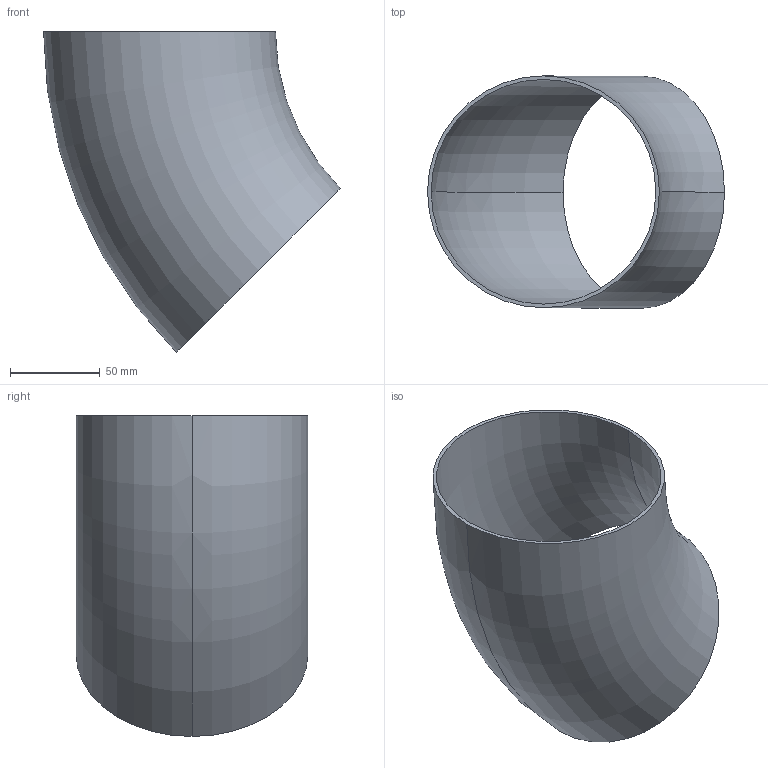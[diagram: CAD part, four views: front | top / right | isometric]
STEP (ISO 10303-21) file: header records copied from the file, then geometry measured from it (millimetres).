
FILE_DESCRIPTION (( 'STEP AP203' ), '1' );
FILE_NAME ('3D_R1650_129x2_17351600.STEP', '2024-08-03T09:10:18', ( '' ), ( '' ), 'SwSTEP 2.0', 'SolidWorks 2024', '' );
FILE_SCHEMA (( 'CONFIG_CONTROL_DESIGN' ));
Length unit declared in the file: millimetre
Products named in the file (1): 3D_R1650_129x2_17351600
Bounding box: 165.17 x 129 x 178.54 mm (x, y, z)
Volume: 117823.3 mm3; surface area: 119419.3 mm2
Topology: 1 solids, 1 shells, 6 faces, 12 edges, 8 vertices
Faces by surface type: torus 4, plane 2
Entity records: 249 total; most frequent: DIRECTION 38, CARTESIAN_POINT 27, ORIENTED_EDGE 24, AXIS2_PLACEMENT_3D 19, EDGE_CURVE 12, CIRCLE 12, PERSON_AND_ORGANIZATION 8, VERTEX_POINT 8
